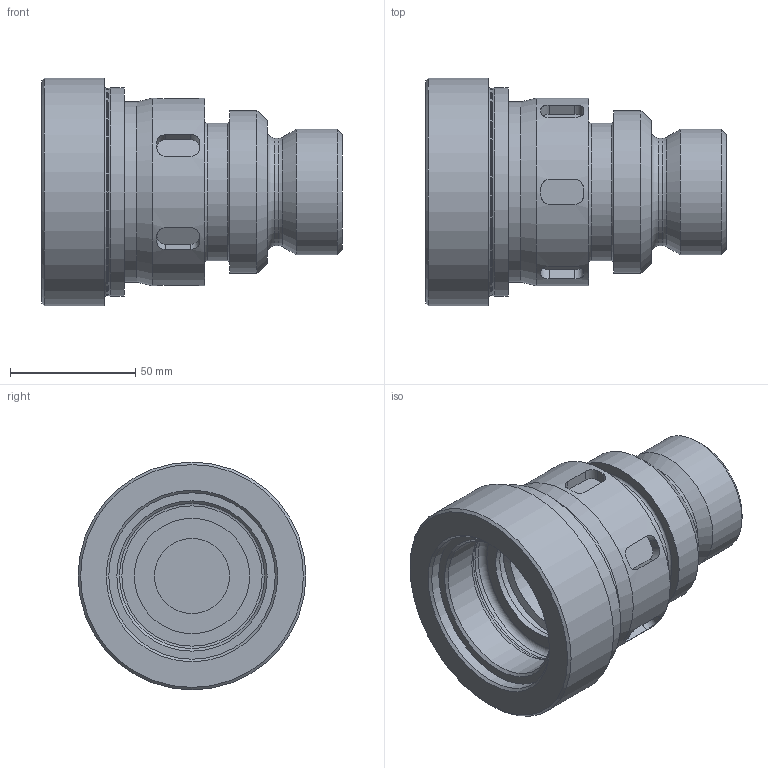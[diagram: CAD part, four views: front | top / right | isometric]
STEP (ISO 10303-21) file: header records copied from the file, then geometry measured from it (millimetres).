
FILE_DESCRIPTION(/* description */ ('Alibre Inc.'),/* implementation_level */ '2;1');
FILE_NAME(/* name */ 'export-51D4D371-0E97-497A-9E4D-7199E2DC9322',/* time_stamp */ '2025-06-25T08:27:50+02:00',/* author */ (''),/* organization */ (''),/* preprocessor_version */ 'ST-DEVELOPER v17',/* originating_system */ 'Alibre',/* authorisation */ '');
FILE_SCHEMA (('CONFIG_CONTROL_DESIGN'));
Length unit declared in the file: millimetre
Bounding box: 120 x 91 x 91 mm (x, y, z)
Volume: 353680.3 mm3; surface area: 50926.7 mm2
Topology: 1 solids, 1 shells, 100 faces, 224 edges, 141 vertices
Faces by surface type: plane 41, cylinder 40, cone 11, torus 8
Full cylindrical faces by diameter (mm): 30 x1, 43 x1, 46.03 x2, 50 x1, 52.05 x1, 54.9 x1, 58 x1, 61 x1, 64.998 x1, 66.5 x1, 72 x1, 75 x1, 82.725 x1, 83.325 x1, 91 x1
Entity records: 3374 total; most frequent: CARTESIAN_POINT 1222, DIRECTION 397, ORIENTED_EDGE 378, EDGE_CURVE 189, AXIS2_PLACEMENT_3D 181, EDGE_LOOP 150, FACE_BOUND 150, VERTEX_POINT 141
